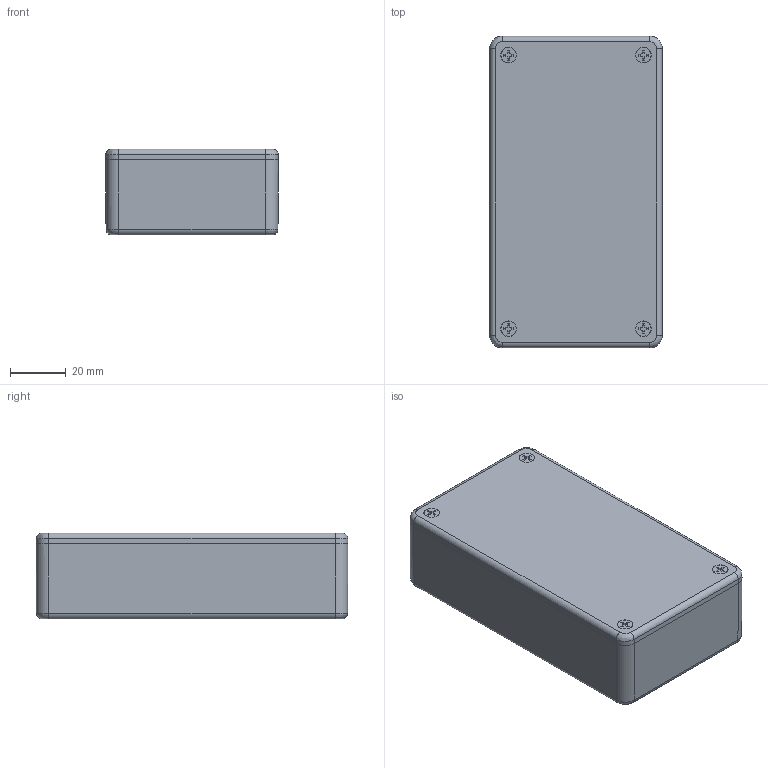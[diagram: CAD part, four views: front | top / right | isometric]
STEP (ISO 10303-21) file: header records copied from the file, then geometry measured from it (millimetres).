
FILE_DESCRIPTION(/* description */ (''),/* implementation_level */ '2;1');
FILE_NAME(/* name */ 'E:\Eng\Customer Service\Drawings\working on 1591\STEP\1591B\1591B.iam.stp',/* time_stamp */ '2015-06-03T10:00:05-04:00',/* author */ ('gdineen'),/* organization */ (''),/* preprocessor_version */ 'ST-DEVELOPER v15.6',/* originating_system */ 'Autodesk Inventor 2015',/* authorisation */ '');
FILE_SCHEMA (('AUTOMOTIVE_DESIGN { 1 0 10303 214 3 1 1 }'));
Products named in the file (5): 1591B Box; 1591B Lid; SC500 (screw M3-0.5X 10mm FH); IN100 (insert M3-0.5X5.75mm BRASS); 1591B
Assembly tree (10 placements, depth 2):
  1591B
    1591B Box
    1591B Lid
    SC500 (screw M3-0.5X 10mm FH)  x4
    IN100 (insert M3-0.5X5.75mm BRASS)  x4
Bounding box: 62 x 112 x 30.8 mm (x, y, z)
Volume: 54030.3 mm3; surface area: 55065.2 mm2
Topology: 10 solids, 10 shells, 1378 faces, 3813 edges, 2522 vertices
Faces by surface type: plane 592, bspline 434, cylinder 308, cone 44
Full cylindrical faces by diameter (mm): 2.464 x4, 3 x8, 3.81 x12, 3.912 x4, 3.988 x4, 5.5 x4, 5.6 x4, 8 x4
Entity records: 30690 total; most frequent: CARTESIAN_POINT 9265, ORIENTED_EDGE 4822, DIRECTION 3679, EDGE_CURVE 2411, VERTEX_POINT 1612, LINE 1553, VECTOR 1553, AXIS2_PLACEMENT_3D 1063
